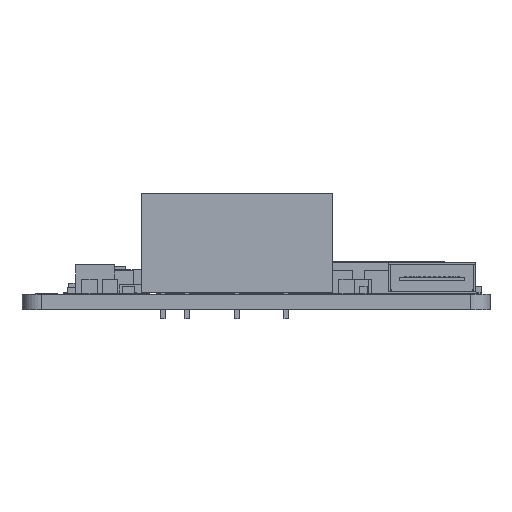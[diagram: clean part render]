
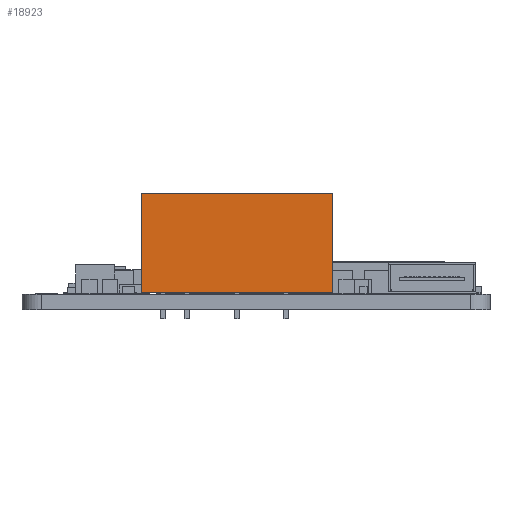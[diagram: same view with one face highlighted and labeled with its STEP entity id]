
A CAD part, front view. The second image highlights one B-rep face of the part: STEP entity #18923.
In plain terms, the highlighted planar face has unit normal (0, -1, 0).
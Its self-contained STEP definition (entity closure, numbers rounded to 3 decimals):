
#18923 = ADVANCED_FACE('',(#18924),#18958,.F.);
#18924 = FACE_BOUND('',#18925,.F.);
#18925 = EDGE_LOOP('',(#18926,#18936,#18944,#18952));
#18926 = ORIENTED_EDGE('',*,*,#18927,.T.);
#18927 = EDGE_CURVE('',#18928,#18930,#18932,.T.);
#18928 = VERTEX_POINT('',#18929);
#18929 = CARTESIAN_POINT('',(12.21,0.7,0.15));
#18930 = VERTEX_POINT('',#18931);
#18931 = CARTESIAN_POINT('',(12.21,0.7,10.31));
#18932 = LINE('',#18933,#18934);
#18933 = CARTESIAN_POINT('',(12.21,0.7,0.15));
#18934 = VECTOR('',#18935,1.);
#18935 = DIRECTION('',(0.,0.,1.));
#18936 = ORIENTED_EDGE('',*,*,#18937,.T.);
#18937 = EDGE_CURVE('',#18930,#18938,#18940,.T.);
#18938 = VERTEX_POINT('',#18939);
#18939 = CARTESIAN_POINT('',(31.86,0.7,10.31));
#18940 = LINE('',#18941,#18942);
#18941 = CARTESIAN_POINT('',(12.21,0.7,10.31));
#18942 = VECTOR('',#18943,1.);
#18943 = DIRECTION('',(1.,0.,0.));
#18944 = ORIENTED_EDGE('',*,*,#18945,.F.);
#18945 = EDGE_CURVE('',#18946,#18938,#18948,.T.);
#18946 = VERTEX_POINT('',#18947);
#18947 = CARTESIAN_POINT('',(31.86,0.7,0.15));
#18948 = LINE('',#18949,#18950);
#18949 = CARTESIAN_POINT('',(31.86,0.7,0.15));
#18950 = VECTOR('',#18951,1.);
#18951 = DIRECTION('',(0.,0.,1.));
#18952 = ORIENTED_EDGE('',*,*,#18953,.F.);
#18953 = EDGE_CURVE('',#18928,#18946,#18954,.T.);
#18954 = LINE('',#18955,#18956);
#18955 = CARTESIAN_POINT('',(12.21,0.7,0.15));
#18956 = VECTOR('',#18957,1.);
#18957 = DIRECTION('',(1.,0.,0.));
#18958 = PLANE('',#18959);
#18959 = AXIS2_PLACEMENT_3D('',#18960,#18961,#18962);
#18960 = CARTESIAN_POINT('',(12.21,0.7,0.15));
#18961 = DIRECTION('',(0.,1.,0.));
#18962 = DIRECTION('',(1.,0.,0.));
